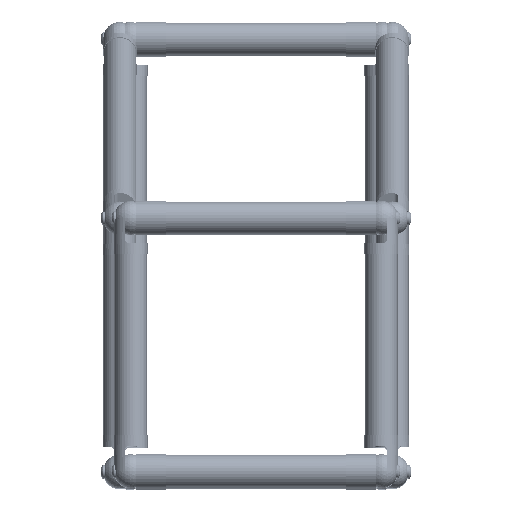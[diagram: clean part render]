
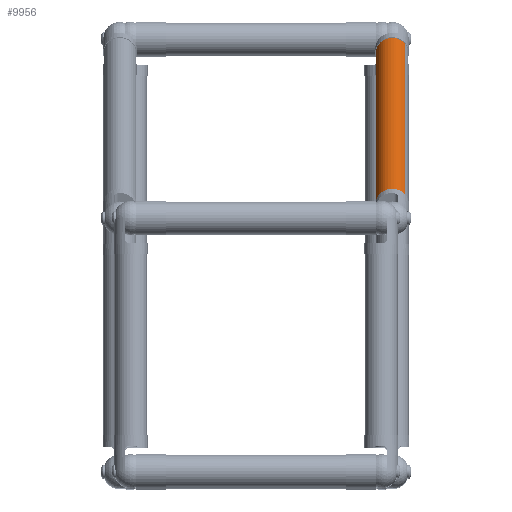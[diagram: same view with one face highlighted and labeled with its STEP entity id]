
A CAD part, top view. The second image highlights one B-rep face of the part: STEP entity #9956.
In plain terms, the highlighted cylindrical face has radius 13.716 mm (diameter 27.432 mm), a partial arc.
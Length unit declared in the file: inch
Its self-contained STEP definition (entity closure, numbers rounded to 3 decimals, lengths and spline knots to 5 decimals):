
#517 = DIRECTION ( 'NONE',  ( 0., -0.384, 0.923 ) ) ;
#1218 = CARTESIAN_POINT ( 'NONE',  ( 4.97569, 4.96769, -5.22039 ) ) ;
#1477 = DIRECTION ( 'NONE',  ( 0.821, 0.528, 0.219 ) ) ;
#5306 = CYLINDRICAL_SURFACE ( 'NONE', #118203, 0.54 ) ;
#7167 = DIRECTION ( 'NONE',  ( 0., -0.384, 0.923 ) ) ;
#8706 = LINE ( 'NONE', #88530, #82273 ) ;
#9710 = CARTESIAN_POINT ( 'NONE',  ( 4.5325, 4.68281, -5.33883 ) ) ;
#9956 = ADVANCED_FACE ( 'NONE', ( #88085 ), #5306, .T. ) ;
#18997 = EDGE_CURVE ( 'NONE', #29874, #19617, #67178, .T. ) ;
#19029 = VECTOR ( 'NONE', #147481, 39.37008 ) ;
#19617 = VERTEX_POINT ( 'NONE', #35967 ) ;
#29493 = ORIENTED_EDGE ( 'NONE', *, *, #18997, .F. ) ;
#29874 = VERTEX_POINT ( 'NONE', #1218 ) ;
#35967 = CARTESIAN_POINT ( 'NONE',  ( 4.08931, 4.39793, -5.45727 ) ) ;
#44736 = CARTESIAN_POINT ( 'NONE',  ( 4.97569, 4.96769, -5.22039 ) ) ;
#45300 = EDGE_CURVE ( 'NONE', #76311, #29874, #97157, .T. ) ;
#45710 = EDGE_LOOP ( 'NONE', ( #176151, #120053, #29493, #110181 ) ) ;
#58911 = CARTESIAN_POINT ( 'NONE',  ( 4.97569, 10.03406, -17.40669 ) ) ;
#67178 = CIRCLE ( 'NONE', #190521, 0.54 ) ;
#69535 = CARTESIAN_POINT ( 'NONE',  ( 4.5325, 9.74918, -17.52513 ) ) ;
#76311 = VERTEX_POINT ( 'NONE', #58911 ) ;
#82273 = VECTOR ( 'NONE', #517, 39.37008 ) ;
#84269 = DIRECTION ( 'NONE',  ( 0.821, 0.528, 0.219 ) ) ;
#84573 = EDGE_CURVE ( 'NONE', #110513, #19617, #8706, .T. ) ;
#88085 = FACE_OUTER_BOUND ( 'NONE', #45710, .T. ) ;
#88530 = CARTESIAN_POINT ( 'NONE',  ( 4.08931, 4.39793, -5.45727 ) ) ;
#89476 = DIRECTION ( 'NONE',  ( 0., -0.384, 0.923 ) ) ;
#97157 = LINE ( 'NONE', #44736, #19029 ) ;
#105508 = AXIS2_PLACEMENT_3D ( 'NONE', #69535, #172262, #84269 ) ;
#110181 = ORIENTED_EDGE ( 'NONE', *, *, #45300, .F. ) ;
#110513 = VERTEX_POINT ( 'NONE', #169777 ) ;
#118203 = AXIS2_PLACEMENT_3D ( 'NONE', #9710, #7167, #127333 ) ;
#120053 = ORIENTED_EDGE ( 'NONE', *, *, #84573, .T. ) ;
#127333 = DIRECTION ( 'NONE',  ( 0.821, 0.528, 0.219 ) ) ;
#138619 = EDGE_CURVE ( 'NONE', #76311, #110513, #153512, .T. ) ;
#147481 = DIRECTION ( 'NONE',  ( 0., -0.384, 0.923 ) ) ;
#153512 = CIRCLE ( 'NONE', #105508, 0.54 ) ;
#169777 = CARTESIAN_POINT ( 'NONE',  ( 4.08931, 9.46429, -17.64357 ) ) ;
#172262 = DIRECTION ( 'NONE',  ( 0., -0.384, 0.923 ) ) ;
#176151 = ORIENTED_EDGE ( 'NONE', *, *, #138619, .T. ) ;
#177480 = CARTESIAN_POINT ( 'NONE',  ( 4.5325, 4.68281, -5.33883 ) ) ;
#190521 = AXIS2_PLACEMENT_3D ( 'NONE', #177480, #89476, #1477 ) ;
